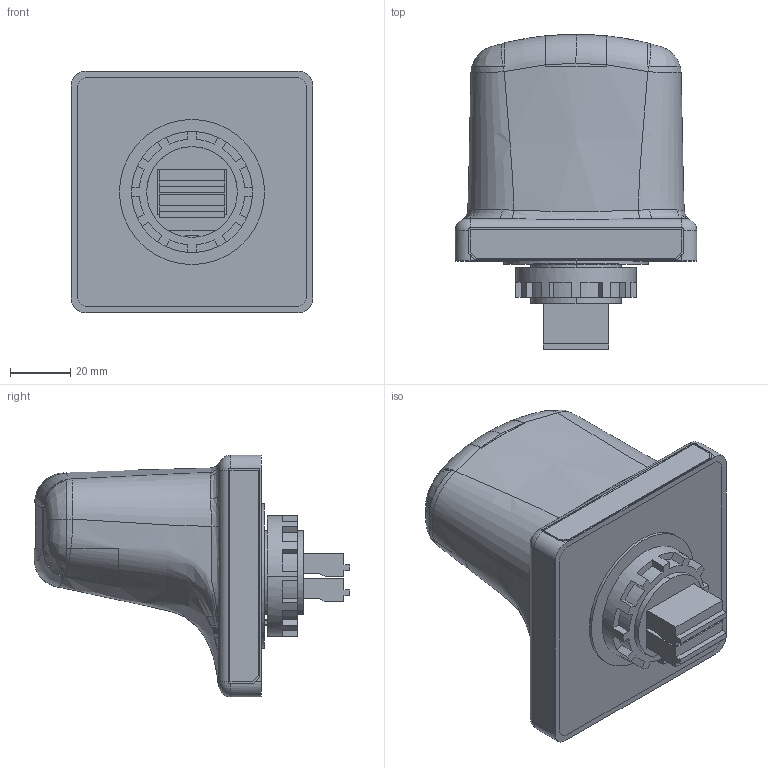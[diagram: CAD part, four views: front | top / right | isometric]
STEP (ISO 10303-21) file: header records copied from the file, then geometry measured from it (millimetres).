
FILE_DESCRIPTION (( 'STEP AP203' ), '1' );
FILE_NAME ('SW-101.STEP', '2007-01-19T06:46:36', ( ' ' ), ( ' ' ), 'SwSTEP 2.0', 'SolidWorks 2005235', '' );
FILE_SCHEMA (( 'CONFIG_CONTROL_DESIGN' ));
Products named in the file (1): SW-101
Bounding box: 80 x 104.3 x 80 mm (x, y, z)
Volume: 266972.1 mm3; surface area: 42880.3 mm2
Topology: 10 solids, 10 shells, 851 faces, 2335 edges, 1547 vertices
Faces by surface type: plane 597, bspline 195, cylinder 51, torus 6, cone 2
Entity records: 69424 total; most frequent: CARTESIAN_POINT 49680, ORIENTED_EDGE 4670, DIRECTION 3044, EDGE_CURVE 2335, VERTEX_POINT 1547, VECTOR 1444, LINE 1444, EDGE_LOOP 898
